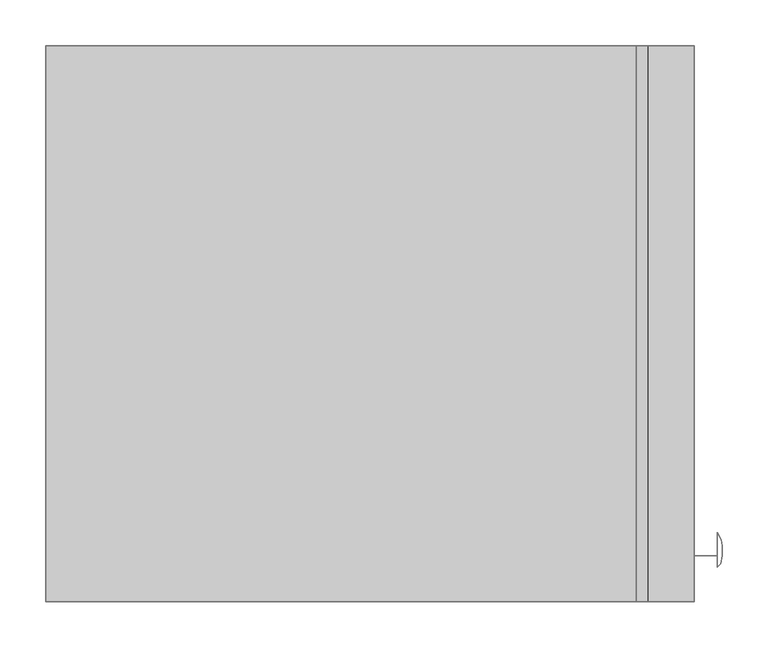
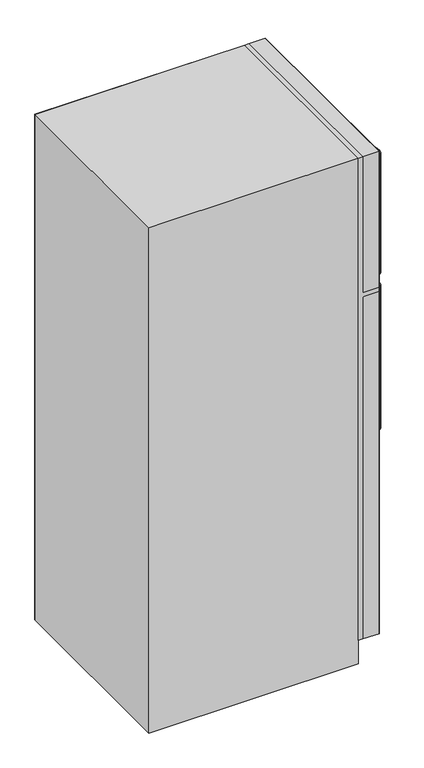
"""IFC4 building model written with IfcOpenShell, lengths in millimetres: proxy geometry, _Produtos_Arq_Bib_Freezer_-_Upright_404 : _Produtos_Arq_Bib_Freezer_-_Upright_404."""

import ifcopenshell
import ifcopenshell.guid

model = None  # the IFC model being written
_history = None  # IfcOwnerHistory: only IFC2X3 demands one
_inside = {}  # id of a spatial element -> (the spatial element, [elements in it])
_under = {}  # id of a project, library or spatial element -> (it, [spatial elements below it])
_declared = {}  # id of a project -> (the project, [libraries it declares])
_typed = {}  # id of a type object -> (the type object, [elements of that type])
_made_of = {}  # id of a material, layer set ... -> (it, [elements and type objects made of it])


def new_model(schema):
    """Start an empty IFC model of exactly this schema.

    Asked for "IFC4X3", IfcOpenShell would pick the latest addendum, in which some entities
    have other attributes; the version numbers below select the first issue.
    IFC2X3 requires an IfcOwnerHistory on every rooted entity: one is made here for all.
    """
    global model, _history
    if schema == "IFC4X3":
        model = ifcopenshell.file(schema_version=(4, 3, 0, 0))
    else:
        model = ifcopenshell.file(schema=schema)
    _inside.clear()
    _under.clear()
    _declared.clear()
    _typed.clear()
    _made_of.clear()
    _history = None
    if model.schema == "IFC2X3":
        org = make("IfcOrganization", Name="unknown")
        user = make(
            "IfcPersonAndOrganization",
            ThePerson=make("IfcPerson", FamilyName="unknown"),
            TheOrganization=org,
        )
        app = make(
            "IfcApplication",
            ApplicationDeveloper=org,
            Version="unknown",
            ApplicationFullName="unknown",
            ApplicationIdentifier="unknown",
        )
        _history = make(
            "IfcOwnerHistory",
            OwningUser=user,
            OwningApplication=app,
            ChangeAction="ADDED",
            CreationDate=0,
        )
    return model


def make(cls, **values):
    """One entity of the class cls with the attributes given. An attribute that is None is left unset."""
    return model.create_entity(
        cls, **{name: value for name, value in values.items() if value is not None}
    )


def rooted(cls, **values):
    """An entity with a GlobalId (a new one), such as an element, a storey or a relation."""
    return make(cls, GlobalId=ifcopenshell.guid.new(), OwnerHistory=_history, **values)


def si_unit(unit_type, name, prefix=None):
    """IfcSIUnit, for example si_unit("LENGTHUNIT", "METRE", prefix="MILLI")."""
    return make("IfcSIUnit", UnitType=unit_type, Prefix=prefix, Name=name)


def assignment(units):
    """IfcUnitAssignment: the units of a project."""
    return None if units is None else make("IfcUnitAssignment", Units=units)


def point(xyz):
    """IfcCartesianPoint."""
    return None if xyz is None else make("IfcCartesianPoint", Coordinates=xyz)


def direction(xyz):
    """IfcDirection."""
    return None if xyz is None else make("IfcDirection", DirectionRatios=xyz)


def frame(location, z_axis=None, x_axis=None):
    """IfcAxis2Placement3D, a coordinate frame: its origin and axes. An axis left out is left unset."""
    return make(
        "IfcAxis2Placement3D",
        Location=point(location),
        Axis=direction(z_axis),
        RefDirection=direction(x_axis),
    )


def origin():
    """The frame at (0, 0, 0) with its axes left unset."""
    return frame((0.0, 0.0, 0.0))


def place(relative_to, where):
    """IfcLocalPlacement: puts the frame where relative to a parent placement (None: the world)."""
    return make(
        "IfcLocalPlacement", PlacementRelTo=relative_to, RelativePlacement=where
    )


def context(
    kind, dimensions, precision=None, world=None, true_north=None, identifier=None
):
    """IfcGeometricRepresentationContext, for example the 3D "Model" context."""
    return make(
        "IfcGeometricRepresentationContext",
        ContextIdentifier=identifier,
        ContextType=kind,
        CoordinateSpaceDimension=dimensions,
        Precision=precision,
        WorldCoordinateSystem=world,
        TrueNorth=true_north,
    )


def project(units=None, contexts=None):
    """IfcProject with its units and contexts."""
    return rooted(
        "IfcProject",
        Name="project",
        RepresentationContexts=contexts,
        UnitsInContext=assignment(units),
    )


def spatial(cls, under=None, at=None, **own):
    """A site, building, storey or space (cls), placed at a placement, below another one or the project."""
    s = rooted(cls, ObjectPlacement=at, **own)
    if under is not None:
        _under.setdefault(under.id(), (under, []))[1].append(s)
    return s


def point_list(points):
    """IfcCartesianPointList2D or 3D."""
    cls = (
        "IfcCartesianPointList2D" if len(points[0]) == 2 else "IfcCartesianPointList3D"
    )
    return make(cls, CoordList=points)


def triangles(points, corners, closed=None, point_numbers=None):
    """IfcTriangulatedFaceSet: each triangle names its three corners, points numbered from 1."""
    return make(
        "IfcTriangulatedFaceSet",
        Coordinates=point_list(points),
        Closed=closed,
        CoordIndex=corners,
        PnIndex=point_numbers,
    )


def shape(context_of_items, identifier, shape_type, items):
    """IfcShapeRepresentation: the items that make up one representation, for example the "Body"."""
    return make(
        "IfcShapeRepresentation",
        ContextOfItems=context_of_items,
        RepresentationIdentifier=identifier,
        RepresentationType=shape_type,
        Items=items,
    )


def source(mapping_origin, context_of_items, identifier, shape_type, items):
    """IfcRepresentationMap: a shape defined once, which mapped items show again and again."""
    return make(
        "IfcRepresentationMap",
        MappingOrigin=mapping_origin,
        MappedRepresentation=shape(context_of_items, identifier, shape_type, items),
    )


def transform(
    local_origin,
    x_axis=None,
    y_axis=None,
    z_axis=None,
    scale=None,
    scale2=None,
    scale3=None,
    uniform=True,
):
    """IfcCartesianTransformationOperator3D, or its non-uniform kind. x_axis, y_axis, z_axis: its Axis1, 2, 3."""
    if uniform:
        return make(
            "IfcCartesianTransformationOperator3D",
            Axis1=direction(x_axis),
            Axis2=direction(y_axis),
            LocalOrigin=point(local_origin),
            Scale=scale,
            Axis3=direction(z_axis),
        )
    return make(
        "IfcCartesianTransformationOperator3DnonUniform",
        Axis1=direction(x_axis),
        Axis2=direction(y_axis),
        LocalOrigin=point(local_origin),
        Scale=scale,
        Axis3=direction(z_axis),
        Scale2=scale2,
        Scale3=scale3,
    )


def mapped(mapping_source, mapping_target):
    """IfcMappedItem: shows the shape of a source again, moved by a transform."""
    return make(
        "IfcMappedItem", MappingSource=mapping_source, MappingTarget=mapping_target
    )


def made_of(thing, what):
    """Note that an element or type object is made of a material, layer set ...; save() writes the relation."""
    if what is not None:
        _made_of.setdefault(what.id(), (what, []))[1].append(thing)
    return thing


def element(
    cls,
    number,
    at=None,
    inside=None,
    cuts=None,
    type_object=None,
    material=None,
    context=None,
    identifier="Body",
    shape_type=None,
    held_by="IfcProductDefinitionShape",
    body=None,
    shapes=None,
    **own,
):
    """One element of the class cls, such as IfcWall. Its Tag is "e" and its number.

    at: its placement. inside: the storey or other place that contains it. cuts: it is an
    opening in that element (IfcRelVoidsElement). A single representation is given by context,
    identifier, shape_type and body (its items); several are given by shapes. held_by: the class
    of the entity that holds the representations. save() writes the other relations.
    """
    e = rooted(cls, Tag="e%d" % number, ObjectPlacement=at, **own)
    if body is not None:
        shapes = [shape(context, identifier, shape_type, body)]
    if shapes is not None:
        e.Representation = make(held_by, Representations=shapes)
    if inside is not None:
        _inside.setdefault(inside.id(), (inside, []))[1].append(e)
    if cuts is not None:
        rooted(
            "IfcRelVoidsElement", RelatingBuildingElement=cuts, RelatedOpeningElement=e
        )
    if type_object is not None:
        _typed.setdefault(type_object.id(), (type_object, []))[1].append(e)
    return made_of(e, material)


def aggregate(whole, parts):
    """IfcRelAggregates: a whole, such as a stair, and the parts it consists of."""
    return rooted("IfcRelAggregates", RelatingObject=whole, RelatedObjects=parts)


def save(model, path):
    """Write the relations noted so far, then the file.

    IfcRelAggregates (storeys below a building ...), IfcRelContainedInSpatialStructure (elements
    in a storey), IfcRelDefinesByType, IfcRelAssociatesMaterial and IfcRelDeclares: one each for
    every whole, place, type object, material and project.
    """
    for whole, parts in _under.values():
        aggregate(whole, parts)
    for where, things in _inside.values():
        rooted(
            "IfcRelContainedInSpatialStructure",
            RelatedElements=things,
            RelatingStructure=where,
        )
    for kind, things in _typed.values():
        rooted("IfcRelDefinesByType", RelatedObjects=things, RelatingType=kind)
    for what, things in _made_of.values():
        rooted("IfcRelAssociatesMaterial", RelatedObjects=things, RelatingMaterial=what)
    for by, libraries in _declared.values():
        rooted("IfcRelDeclares", RelatingContext=by, RelatedDefinitions=libraries)
    model.write(path)


def specialty_equipment_45fd0e0a(model_context):
    return source(origin(), model_context, "Body", "Tessellation", [
        triangles([(711.1999758, 609.6000727, 1206.4999758), (711.1999758, 609.6000727, 1193.8000242), (660.4000242, 609.6000727, 1206.4999758), (660.4000242, 609.6000727, 1193.8000242), (711.1999758, 3e-05, 1206.4999758), (711.1999758, 2.89e-05, 1193.8000242), (660.4000242, 3e-05, 1206.4999758), (660.4000242, 2.89e-05, 1193.8000242), (660.4000242, 609.6000727, 1650.9999516), (647.7, 609.6000727, 1650.9999516), (660.4000242, 6.88e-05, 1650.9999516), (647.7, 6.88e-05, 1650.9999516), (660.4000242, 609.5999637, 76.2000273), (647.7, 609.5999637, 76.2000273), (660.4000242, -6.88e-05, 76.2000273), (647.7, -6.88e-05, 76.2000273)], [[1, 2, 3], [4, 3, 2], [5, 6, 2], [2, 1, 5], [7, 8, 5], [6, 5, 8], [9, 10, 11], [12, 11, 10], [13, 14, 10], [10, 9, 13], [15, 16, 13], [14, 13, 16], [11, 12, 16], [16, 15, 11]], closed=False),
        triangles([(736.6000242, 38.1000091, 1219.2), (736.6000242, 76.2000091, 1219.2), (736.6000242, 38.1000409, 1612.8999516), (736.6000242, 76.2000454, 1612.8999516), (740.5878622, 67.9504309, 1219.2), (740.5878622, 67.9504672, 1612.8999516), (741.7906958, 61.3374125, 1219.2), (741.7906958, 61.3374488, 1612.8999516), (741.9911922, 50.4159134, 1219.2), (741.9911922, 50.4159497, 1612.8999516), (739.9864454, 41.9993487, 1219.2), (739.9864454, 41.999385, 1612.8999516), (736.6000242, 38.0999614, 711.1999758), (736.6000242, 76.1999591, 711.1999758), (736.6000242, 38.1000045, 1181.1), (736.6000242, 76.2, 1181.1), (740.5878622, 67.9503809, 711.1999758), (740.5878622, 67.9504263, 1181.1), (741.7906958, 61.337367, 711.1999758), (741.7906958, 61.3374079, 1181.1), (741.9911922, 50.415868, 711.1999758), (741.9911922, 50.4159134, 1181.1), (739.9864454, 41.9993032, 711.1999758), (739.9864454, 41.9993487, 1181.1), (711.1999758, 50.8000424, 1612.8999516), (736.6000242, 50.8000424, 1612.8999516), (736.6000242, 50.8000061, 1219.2), (711.1999758, 50.8000061, 1219.2), (711.1999758, 50.8000015, 1181.1), (736.6000242, 50.8000015, 1181.1), (736.6000242, 50.7999606, 711.1999758), (711.1999758, 50.7999606, 711.1999758)], [[1, 2, 3], [4, 2, 3], [2, 5, 4], [5, 6, 4], [5, 7, 6], [7, 8, 6], [7, 9, 8], [9, 10, 8], [9, 11, 10], [11, 12, 10], [11, 1, 12], [1, 3, 12], [13, 14, 15], [14, 16, 15], [14, 17, 16], [17, 18, 16], [17, 19, 18], [19, 20, 18], [19, 21, 20], [21, 22, 20], [21, 23, 22], [23, 24, 22], [23, 13, 24], [13, 15, 24], [25, 26, 27], [27, 28, 25], [29, 30, 31], [31, 32, 29]], closed=False),
        triangles([(711.1999758, 609.6000727, 1650.9999516), (711.1999758, 7.22e-05, 1650.9999516), (711.1999758, 609.6000727, 1206.4999758), (711.1999758, 3.33e-05, 1206.4999758), (711.1999758, 609.6000727, 1193.8000242), (711.1999758, 3.22e-05, 1193.8000242), (711.1999758, 609.5999637, 76.2000273), (711.1999758, -6.55e-05, 76.2000273), (647.7, 609.5999637, 76.2000273), (647.7, -6.55e-05, 76.2000273), (647.7, 609.5999637, -2.66e-05), (647.7, -7.22e-05, 2.66e-05), (660.4000242, 3.22e-05, 1193.8000242), (660.4000242, -6.55e-05, 76.2000273), (660.4000242, 7.22e-05, 1650.9999516), (660.4000242, 3.33e-05, 1206.4999758), (647.7, 7.22e-05, 1650.9999516), (0.0, 7.22e-05, 1650.9999516), (0.0, -7.22e-05, 2.66e-05), (647.7, 609.6000727, 1650.9999516), (0.0, 609.6000727, 1650.9999516), (0.0, 609.5999637, -2.66e-05), (660.4000242, 609.6000727, 1650.9999516), (660.4000242, 609.6000727, 1206.4999758), (660.4000242, 609.6000727, 1193.8000242), (660.4000242, 609.5999637, 76.2000273)], [[1, 2, 3], [4, 3, 2], [5, 6, 7], [8, 7, 6], [9, 10, 11], [12, 11, 10], [8, 6, 13], [13, 14, 8], [4, 2, 15], [15, 16, 4], [12, 17, 18], [18, 19, 12], [20, 11, 21], [22, 21, 11], [1, 3, 23], [24, 23, 3], [5, 7, 25], [26, 25, 7], [2, 1, 15], [23, 15, 1], [17, 20, 18], [21, 18, 20], [18, 21, 19], [22, 19, 21]], closed=False),
    ])


if __name__ == "__main__":
    model = new_model("IFC4")
    model_context = context("Model", 3, world=origin())
    ifc_project = project(units=[si_unit("LENGTHUNIT", "METRE", prefix="MILLI")], contexts=[model_context])
    site = spatial("IfcSite", under=ifc_project)
    building = spatial("IfcBuilding", under=site)
    placement = place(None, origin())
    specialty_equipment_shape = specialty_equipment_45fd0e0a(model_context)
    element("IfcBuildingElementProxy", 1, Name="_Produtos_Arq_Bib_Freezer_-_Upright_404 : _Produtos_Arq_Bib_Freezer_-_Upright_404", ObjectType="_Produtos_Arq_Bib_Freezer_-_Upright_404 : _Produtos_Arq_Bib_Freezer_-_Upright_404", at=placement, inside=building, context=model_context, shape_type="MappedRepresentation", body=[
        mapped(specialty_equipment_shape, transform((0.0, 0.0, 0.0), x_axis=(1.0, 0.0, 0.0), y_axis=(0.0, 1.0, 0.0), z_axis=(0.0, 0.0, 1.0))),
    ])
    save(model, "model.ifc")
